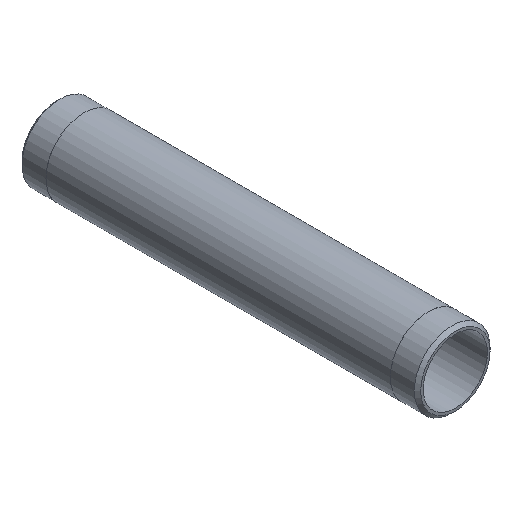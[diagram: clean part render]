
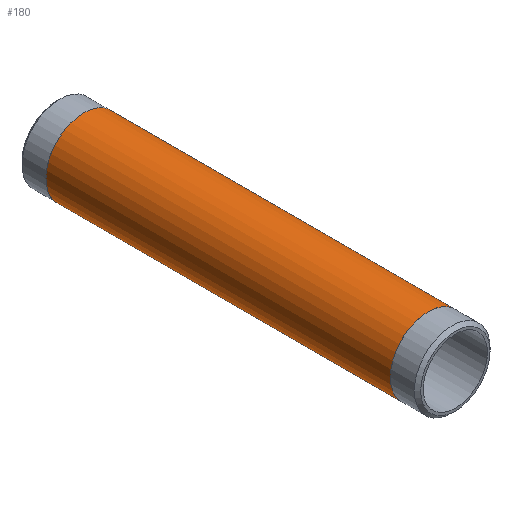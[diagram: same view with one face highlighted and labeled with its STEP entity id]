
A CAD part, isometric view. The second image highlights one B-rep face of the part: STEP entity #180.
In plain terms, the highlighted cylindrical face has radius 24.13 mm (diameter 48.26 mm), a full revolution.
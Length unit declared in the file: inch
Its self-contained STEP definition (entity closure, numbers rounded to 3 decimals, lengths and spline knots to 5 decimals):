
#25=CYLINDRICAL_SURFACE('',#220,0.95);
#34=FACE_OUTER_BOUND('',#47,.T.);
#47=EDGE_LOOP('',(#155,#156,#157,#158,#159,#160));
#55=LINE('',#338,#61);
#61=VECTOR('',#283,0.95);
#77=CIRCLE('',#218,0.95);
#78=CIRCLE('',#219,0.95);
#79=CIRCLE('',#221,0.95);
#80=CIRCLE('',#222,0.95);
#95=VERTEX_POINT('',#329);
#96=VERTEX_POINT('',#330);
#97=VERTEX_POINT('',#334);
#98=VERTEX_POINT('',#335);
#117=EDGE_CURVE('',#95,#96,#77,.T.);
#118=EDGE_CURVE('',#96,#95,#78,.T.);
#119=EDGE_CURVE('',#97,#98,#79,.T.);
#120=EDGE_CURVE('',#98,#97,#80,.T.);
#121=EDGE_CURVE('',#98,#96,#55,.T.);
#155=ORIENTED_EDGE('',*,*,#119,.F.);
#156=ORIENTED_EDGE('',*,*,#120,.F.);
#157=ORIENTED_EDGE('',*,*,#121,.T.);
#158=ORIENTED_EDGE('',*,*,#118,.T.);
#159=ORIENTED_EDGE('',*,*,#117,.T.);
#160=ORIENTED_EDGE('',*,*,#121,.F.);
#180=ADVANCED_FACE('',(#34),#25,.T.);
#218=AXIS2_PLACEMENT_3D('',#331,#273,#274);
#219=AXIS2_PLACEMENT_3D('',#332,#275,#276);
#220=AXIS2_PLACEMENT_3D('',#333,#277,#278);
#221=AXIS2_PLACEMENT_3D('',#336,#279,#280);
#222=AXIS2_PLACEMENT_3D('',#337,#281,#282);
#273=DIRECTION('center_axis',(0.,-1.,0.));
#274=DIRECTION('ref_axis',(1.,0.,0.));
#275=DIRECTION('center_axis',(0.,-1.,0.));
#276=DIRECTION('ref_axis',(1.,0.,0.));
#277=DIRECTION('center_axis',(0.,-1.,0.));
#278=DIRECTION('ref_axis',(0.,0.,-1.));
#279=DIRECTION('center_axis',(0.,-1.,0.));
#280=DIRECTION('ref_axis',(1.,0.,0.));
#281=DIRECTION('center_axis',(0.,-1.,0.));
#282=DIRECTION('ref_axis',(1.,0.,0.));
#283=DIRECTION('',(0.,1.,0.));
#329=CARTESIAN_POINT('',(0.,9.319,-0.95));
#330=CARTESIAN_POINT('',(0.,9.319,0.95));
#331=CARTESIAN_POINT('Origin',(0.,9.319,0.));
#332=CARTESIAN_POINT('Origin',(0.,9.319,0.));
#333=CARTESIAN_POINT('Origin',(0.,5.,0.));
#334=CARTESIAN_POINT('',(0.,0.681,-0.95));
#335=CARTESIAN_POINT('',(0.,0.681,0.95));
#336=CARTESIAN_POINT('Origin',(0.,0.681,0.));
#337=CARTESIAN_POINT('Origin',(0.,0.681,0.));
#338=CARTESIAN_POINT('',(0.,5.,0.95));
